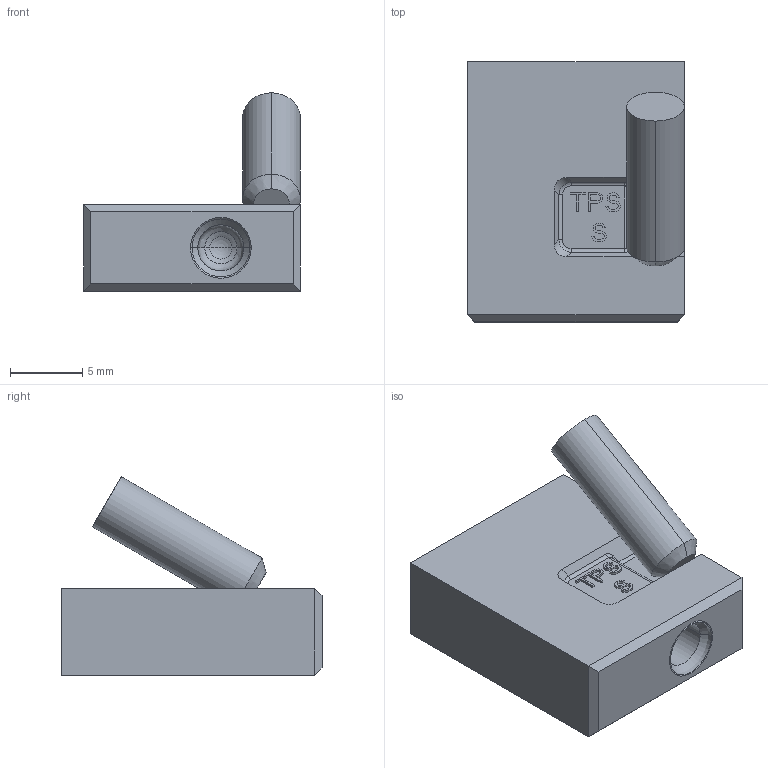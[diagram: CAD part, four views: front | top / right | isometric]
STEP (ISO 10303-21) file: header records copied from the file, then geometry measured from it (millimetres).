
FILE_DESCRIPTION((''),'2;1');
FILE_NAME('TPS-S','2012-11-08T',('gsawatzky'),(''),'PRO/ENGINEER BY PARAMETRIC TECHNOLOGY CORPORATION, 2011490','PRO/ENGINEER BY PARAMETRIC TECHNOLOGY CORPORATION, 2011490','');
FILE_SCHEMA(('CONFIG_CONTROL_DESIGN'));
Length unit declared in the file: millimetre
Products named in the file (1): TPS-S
Bounding box: 15 x 18 x 13.73 mm (x, y, z)
Volume: 1387.9 mm3; surface area: 1361.9 mm2
Topology: 1 solids, 3 shells, 261 faces, 720 edges, 476 vertices
Faces by surface type: plane 194, cylinder 33, bspline 14, cone 8, sphere 6, extrusion 4, torus 2
Entity records: 9671 total; most frequent: CARTESIAN_POINT 3125, ORIENTED_EDGE 1384, DIRECTION 1237, EDGE_CURVE 694, VECTOR 599, LINE 595, VERTEX_POINT 447, AXIS2_PLACEMENT_3D 319
